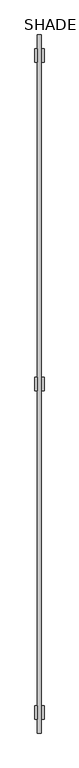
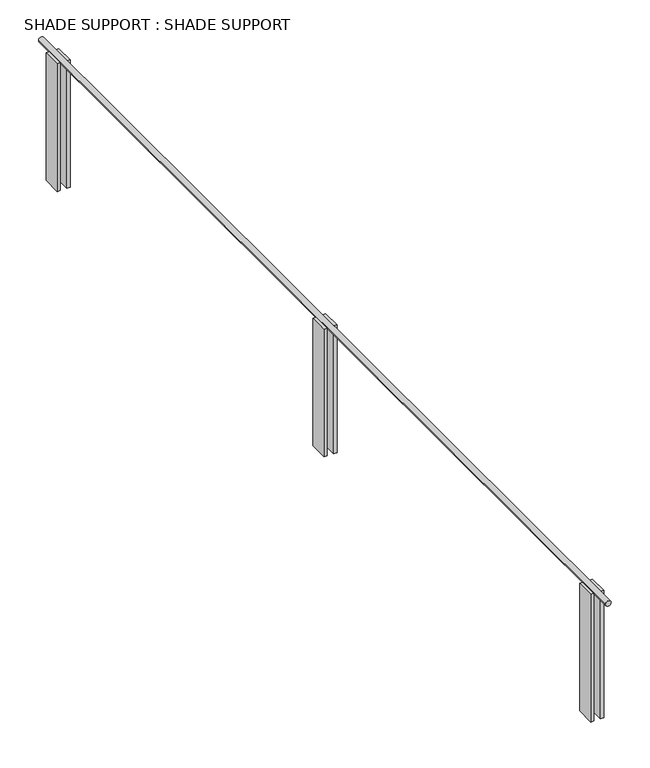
"""IFC4 building model written with IfcOpenShell, lengths in millimetres: proxy geometry, SHADE SUPPORT : SHADE SUPPORT."""

from ifc_helpers import new_model, si_unit, point, frame, frame_2d, origin, origin_with_axes, place, context, project, spatial, polyline, circle_curve, trimmed, segment, composite_curve, outline, extrude, source, transform, mapped, element, save


def shade_support_shade_support_fc9bf8e5(model_context):
    return source(origin(), model_context, "Body", "SweptSolid", [
        extrude(outline(composite_curve([segment(trimmed(circle_curve(frame_2d((1066.8, 0.0)), 22.225), [point((1066.8, -22.225))], [point((1066.8, 22.225))], False, "CARTESIAN"), True, "CONTINUOUS"), segment(trimmed(circle_curve(frame_2d((1066.8, 0.0)), 22.225), [point((1066.8, 22.225))], [point((1066.8, -22.225))], False, "CARTESIAN"), True, "CONTINUOUS")], self_intersect=False)), frame((0.0, -304.8, 0.0), z_axis=(0.0, 1.0, 0.0), x_axis=(0.0, 0.0, 1.0)), (0.0, 0.0, 1.0), 7772.4),
        extrude(outline(polyline([(-25.4, -152.4), (-50.8, -152.4), (-50.8, 0.0), (-25.4, 0.0), (-25.4, -152.4)])), origin_with_axes(), (0.0, 0.0, 1.0), 1066.8),
        extrude(outline(polyline([(50.8, -152.4), (25.4, -152.4), (25.4, 0.0), (50.8, 0.0), (50.8, -152.4)])), origin_with_axes(), (0.0, 0.0, 1.0), 1066.8),
        extrude(outline(polyline([(50.8, 3505.2), (25.4, 3505.2), (25.4, 3657.6), (50.8, 3657.6), (50.8, 3505.2)])), origin_with_axes(), (0.0, 0.0, 1.0), 1066.8),
        extrude(outline(polyline([(-25.4, 3505.2), (-50.8, 3505.2), (-50.8, 3657.6), (-25.4, 3657.6), (-25.4, 3505.2)])), origin_with_axes(), (0.0, 0.0, 1.0), 1066.8),
        extrude(outline(polyline([(50.8, 7162.8), (25.4, 7162.8), (25.4, 7315.2), (50.8, 7315.2), (50.8, 7162.8)])), origin_with_axes(), (0.0, 0.0, 1.0), 1066.8),
        extrude(outline(polyline([(-25.4, 7162.8), (-50.8, 7162.8), (-50.8, 7315.2), (-25.4, 7315.2), (-25.4, 7162.8)])), origin_with_axes(), (0.0, 0.0, 1.0), 1066.8),
    ])


if __name__ == "__main__":
    model = new_model("IFC4")
    model_context = context("Model", 3, world=origin())
    ifc_project = project(units=[si_unit("LENGTHUNIT", "METRE", prefix="MILLI")], contexts=[model_context])
    site = spatial("IfcSite", under=ifc_project)
    building = spatial("IfcBuilding", under=site)
    placement = place(None, origin())
    shade_support_shade_support_shape = shade_support_shade_support_fc9bf8e5(model_context)
    element("IfcBuildingElementProxy", 1, Name="SHADE SUPPORT : SHADE SUPPORT", ObjectType="SHADE SUPPORT : SHADE SUPPORT", at=placement, inside=building, context=model_context, shape_type="MappedRepresentation", body=[
        mapped(shade_support_shade_support_shape, transform((0.0, 0.0, 0.0), x_axis=(1.0, 0.0, 0.0), y_axis=(0.0, 1.0, 0.0), z_axis=(0.0, 0.0, 1.0))),
    ])
    save(model, "model.ifc")
